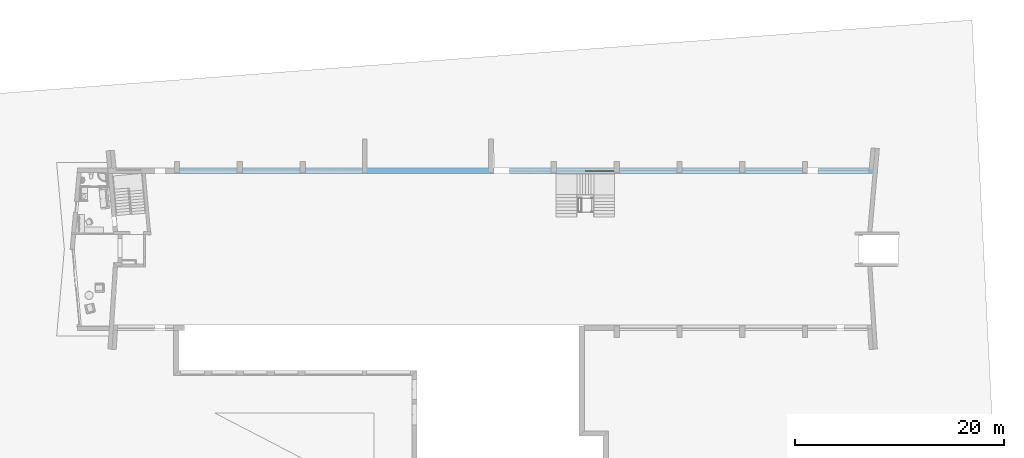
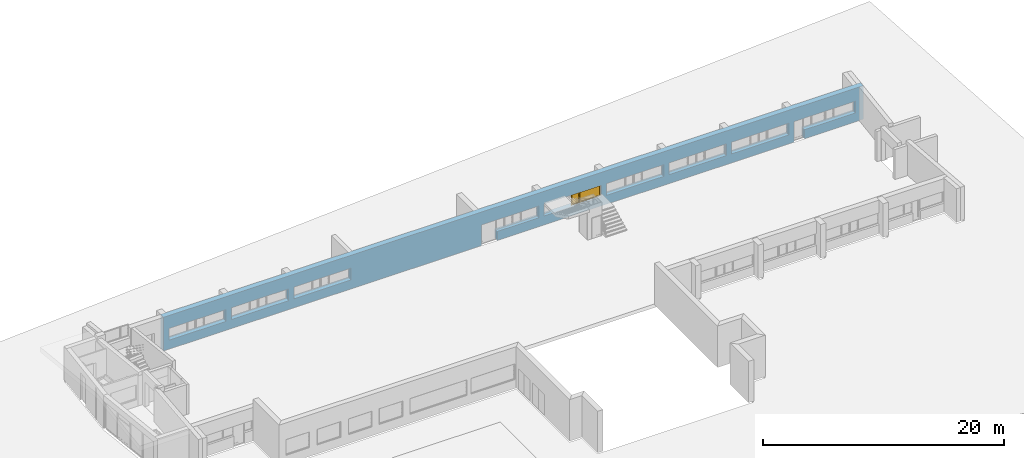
# One storey, part 20 of 36: 1 window, 20 openings, plus 1 element that does not belong to this part.
"""IFC2X3 building model written with IfcOpenShell, lengths in millimetres."""

from ifc_helpers import new_model, entity, si_unit, converted_unit, money_unit, direction, frame, origin_with_axes, place, context, subcontext, project, spatial, polyline, outline, extrude, open_shell, faceted_brep, surface_model, material, material_list, layer, layer_set, layer_usage, type_object, element, fill, save


model = new_model("IFC2X3")

# Units and contexts
model_context = context("Model", 3, precision=1e-05, world=origin_with_axes(), true_north=direction((0.0, 1.0)))
body_context = subcontext(model_context, "Body", "Model", "MODEL_VIEW")
ifc_project = project(units=[si_unit("LENGTHUNIT", "METRE", prefix="MILLI"), si_unit("AREAUNIT", "SQUARE_METRE"), si_unit("VOLUMEUNIT", "CUBIC_METRE"), converted_unit("PLANEANGLEUNIT", "DEGREE", entity("IfcPlaneAngleMeasure", 0.0174532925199), si_unit("PLANEANGLEUNIT", "RADIAN"), dimensions=[0, 0, 0, 0, 0, 0, 0]), si_unit("SOLIDANGLEUNIT", "STERADIAN"), money_unit("USD"), converted_unit("TIMEUNIT", "Year", entity("IfcTimeMeasure", 31556926.0), si_unit("TIMEUNIT", "SECOND"), dimensions=[0, 0, 0, 0, 0, 0, 0]), si_unit("MASSUNIT", "GRAM"), si_unit("THERMODYNAMICTEMPERATUREUNIT", "DEGREE_CELSIUS"), si_unit("LUMINOUSINTENSITYUNIT", "LUMEN")], contexts=[model_context])

# Site, building, storey
site_placement = place(None, origin_with_axes())
site = spatial("IfcSite", under=ifc_project, at=site_placement, Name="Site", CompositionType="ELEMENT")
building_placement = place(site_placement, origin_with_axes())
building = spatial("IfcBuilding", under=site, at=building_placement, Name="Building", CompositionType="ELEMENT")
storey_placement = place(building_placement, frame((0.0, 0.0, -3400.0), z_axis=(0.0, 0.0, 1.0), x_axis=(1.0, 0.0, 0.0)))
storey = spatial("IfcBuildingStorey", under=building, at=storey_placement, Name="1KORRUS", CompositionType="ELEMENT", Elevation=-3400.0)

# Wall, openings, window
ifc_material_1 = material(Name="Olemasolevad seinad tellis, uus viimistlus")
ifc_layer = layer(ifc_material_1, 500.0, ventilated="UNKNOWN")
ifc_layer_set = layer_set([ifc_layer], Name="Olemasolevad seinad tellis, uus viimistlus 500")
ifc_layer_usage = layer_usage(ifc_layer_set, "AXIS2", "POSITIVE", -100.0)
wall_type = type_object("IfcWallType", Name="Olemasolevad seinad tellis, uus viimistlus 500", PredefinedType="NOTDEFINED")
wall_placement = place(storey_placement, frame((-48393.8274049, -5039.6041088, 0.0), z_axis=(0.0, 0.0, 1.0), x_axis=(1.0, 0.0, 0.0)))
wall = element("IfcWallStandardCase", 1, at=wall_placement, inside=storey, type_object=wall_type, material=ifc_layer_usage, Name="VS1", ObjectType="VS1", context=body_context, shape_type="SweptSolid", body=[
    extrude(outline(polyline([(0.0, -100.0), (67149.8194303, -100.0), (67149.8194303, 400.0), (0.0, 400.0), (0.0, -100.0)])), origin_with_axes(), (0.0, 0.0, 1.0), 3400.0),
])
opening_1_placement = place(wall_placement, frame((1878.53070154, 0.0, 900.0), z_axis=(0.0, 0.0, 1.0), x_axis=(1.0, 0.0, 0.0)))
element("IfcOpeningElement", 2, at=opening_1_placement, cuts=wall, Name="Olemasolevad aknad jäävad", context=body_context, shape_type="SweptSolid", body=[
    extrude(outline(polyline([(-1375.0, 1200.0), (-1375.0, 0.0), (1375.0, 0.0), (1375.0, 1200.0), (-1375.0, 1200.0)])), frame((0.0, 250.0, 0.0), z_axis=(0.0, -1.0, 0.0), x_axis=(1.0, 0.0, 0.0)), (0.0, 0.0, 1.0), 850.0),
    extrude(outline(polyline([(-1375.0, 0.0), (-1375.0, -1200.0), (1375.0, -1200.0), (1375.0, 0.0), (-1375.0, 0.0)])), frame((0.0, 250.0, 0.0), z_axis=(0.0, 1.0, 0.0), x_axis=(1.0, 0.0, 0.0)), (0.0, 0.0, 1.0), 650.0),
])
opening_2_placement = place(wall_placement, frame((7878.53070154, 0.0, 900.0), z_axis=(0.0, 0.0, 1.0), x_axis=(1.0, 0.0, 0.0)))
element("IfcOpeningElement", 3, at=opening_2_placement, cuts=wall, Name="Olemasolevad aknad jäävad", context=body_context, shape_type="SweptSolid", body=[
    extrude(outline(polyline([(-1375.0, 1200.0), (-1375.0, 0.0), (1375.0, 0.0), (1375.0, 1200.0), (-1375.0, 1200.0)])), frame((0.0, 250.0, 0.0), z_axis=(0.0, -1.0, 0.0), x_axis=(1.0, 0.0, 0.0)), (0.0, 0.0, 1.0), 850.0),
    extrude(outline(polyline([(-1375.0, 0.0), (-1375.0, -1200.0), (1375.0, -1200.0), (1375.0, 0.0), (-1375.0, 0.0)])), frame((0.0, 250.0, 0.0), z_axis=(0.0, 1.0, 0.0), x_axis=(1.0, 0.0, 0.0)), (0.0, 0.0, 1.0), 650.0),
])
opening_3_placement = place(wall_placement, frame((13878.5307015, 0.0, 900.0), z_axis=(0.0, 0.0, 1.0), x_axis=(1.0, 0.0, 0.0)))
element("IfcOpeningElement", 4, at=opening_3_placement, cuts=wall, Name="Olemasolevad aknad jäävad", context=body_context, shape_type="SweptSolid", body=[
    extrude(outline(polyline([(-1375.0, 1200.0), (-1375.0, 0.0), (1375.0, 0.0), (1375.0, 1200.0), (-1375.0, 1200.0)])), frame((0.0, 250.0, 0.0), z_axis=(0.0, -1.0, 0.0), x_axis=(1.0, 0.0, 0.0)), (0.0, 0.0, 1.0), 850.0),
    extrude(outline(polyline([(-1375.0, 0.0), (-1375.0, -1200.0), (1375.0, -1200.0), (1375.0, 0.0), (-1375.0, 0.0)])), frame((0.0, 250.0, 0.0), z_axis=(0.0, 1.0, 0.0), x_axis=(1.0, 0.0, 0.0)), (0.0, 0.0, 1.0), 650.0),
])
opening_4_placement = place(wall_placement, frame((4628.53070154, 0.0, 900.0), z_axis=(0.0, 0.0, 1.0), x_axis=(1.0, 0.0, 0.0)))
element("IfcOpeningElement", 5, at=opening_4_placement, cuts=wall, Name="Olemasolevad aknad jäävad", context=body_context, shape_type="SweptSolid", body=[
    extrude(outline(polyline([(1375.0, 1200.0), (-1375.0, 1200.0), (-1375.0, 0.0), (1375.0, 0.0), (1375.0, 1200.0)])), frame((0.0, 250.0, 0.0), z_axis=(0.0, -1.0, 0.0), x_axis=(1.0, 0.0, 0.0)), (0.0, 0.0, 1.0), 850.0),
    extrude(outline(polyline([(1375.0, 0.0), (-1375.0, 0.0), (-1375.0, -1200.0), (1375.0, -1200.0), (1375.0, 0.0)])), frame((0.0, 250.0, 0.0), z_axis=(0.0, 1.0, 0.0), x_axis=(1.0, 0.0, 0.0)), (0.0, 0.0, 1.0), 650.0),
])
opening_5_placement = place(wall_placement, frame((10628.5307015, 0.0, 900.0), z_axis=(0.0, 0.0, 1.0), x_axis=(1.0, 0.0, 0.0)))
element("IfcOpeningElement", 6, at=opening_5_placement, cuts=wall, Name="Olemasolevad aknad jäävad", context=body_context, shape_type="SweptSolid", body=[
    extrude(outline(polyline([(1375.0, 1200.0), (-1375.0, 1200.0), (-1375.0, 0.0), (1375.0, 0.0), (1375.0, 1200.0)])), frame((0.0, 250.0, 0.0), z_axis=(0.0, -1.0, 0.0), x_axis=(1.0, 0.0, 0.0)), (0.0, 0.0, 1.0), 850.0),
    extrude(outline(polyline([(1375.0, 0.0), (-1375.0, 0.0), (-1375.0, -1200.0), (1375.0, -1200.0), (1375.0, 0.0)])), frame((0.0, 250.0, 0.0), z_axis=(0.0, 1.0, 0.0), x_axis=(1.0, 0.0, 0.0)), (0.0, 0.0, 1.0), 650.0),
])
opening_6_placement = place(wall_placement, frame((16616.9651775, 0.0, 900.0), z_axis=(0.0, 0.0, 1.0), x_axis=(1.0, 0.0, 0.0)))
element("IfcOpeningElement", 7, at=opening_6_placement, cuts=wall, Name="Olemasolevad aknad jäävad", context=body_context, shape_type="SweptSolid", body=[
    extrude(outline(polyline([(1375.0, 1200.0), (-1375.0, 1200.0), (-1375.0, 0.0), (1375.0, 0.0), (1375.0, 1200.0)])), frame((0.0, 250.0, 0.0), z_axis=(0.0, -1.0, 0.0), x_axis=(1.0, 0.0, 0.0)), (0.0, 0.0, 1.0), 850.0),
    extrude(outline(polyline([(1375.0, 0.0), (-1375.0, 0.0), (-1375.0, -1200.0), (1375.0, -1200.0), (1375.0, 0.0)])), frame((0.0, 250.0, 0.0), z_axis=(0.0, 1.0, 0.0), x_axis=(1.0, 0.0, 0.0)), (0.0, 0.0, 1.0), 650.0),
])
opening_7_placement = place(wall_placement, frame((34803.5307015, 0.0, 900.0), z_axis=(0.0, 0.0, 1.0), x_axis=(1.0, 0.0, 0.0)))
element("IfcOpeningElement", 8, at=opening_7_placement, cuts=wall, Name="Olemasolevad aknad jäävad", context=body_context, shape_type="SweptSolid", body=[
    extrude(outline(polyline([(1200.0, 0.0), (-1200.0, 0.0), (-1200.0, -1200.0), (1200.0, -1200.0), (1200.0, 0.0)])), frame((0.0, 100.0, 0.0), z_axis=(0.0, 1.0, 0.0), x_axis=(1.0, 0.0, 0.0)), (0.0, 0.0, 1.0), 800.0),
    extrude(outline(polyline([(1200.0, 1200.0), (-1200.0, 1200.0), (-1200.0, 0.0), (1200.0, 0.0), (1200.0, 1200.0)])), frame((0.0, 100.0, 0.0), z_axis=(0.0, -1.0, 0.0), x_axis=(1.0, 0.0, 0.0)), (0.0, 0.0, 1.0), 700.0),
])
opening_8_placement = place(wall_placement, frame((40625.1633636, 0.0, 900.0), z_axis=(0.0, 0.0, 1.0), x_axis=(1.0, 0.0, 0.0)))
opening_8 = element("IfcOpeningElement", 9, at=opening_8_placement, cuts=wall, Name="Olemasolevad aknad jäävad", context=body_context, shape_type="SweptSolid", body=[
    extrude(outline(polyline([(1400.0, 0.0), (-1400.0, 0.0), (-1400.0, -1200.0), (1400.0, -1200.0), (1400.0, 0.0)])), frame((0.0, 100.0, 0.0), z_axis=(0.0, 1.0, 0.0), x_axis=(1.0, 0.0, 0.0)), (0.0, 0.0, 1.0), 800.0),
    extrude(outline(polyline([(1400.0, 1200.0), (-1400.0, 1200.0), (-1400.0, 0.0), (1400.0, 0.0), (1400.0, 1200.0)])), frame((0.0, 100.0, 0.0), z_axis=(0.0, -1.0, 0.0), x_axis=(1.0, 0.0, 0.0)), (0.0, 0.0, 1.0), 700.0),
])
opening_9_placement = place(wall_placement, frame((37871.3218818, 0.0, 900.0), z_axis=(0.0, 0.0, 1.0), x_axis=(1.0, 0.0, 0.0)))
element("IfcOpeningElement", 10, at=opening_9_placement, cuts=wall, Name="Olemasolevad aknad jäävad", context=body_context, shape_type="SweptSolid", body=[
    extrude(outline(polyline([(-1367.791, 0.0), (-1367.791, -1200.0), (1367.791, -1200.0), (1367.791, 0.0), (-1367.791, 0.0)])), frame((0.0, 150.0, 0.0), z_axis=(0.0, 1.0, 0.0), x_axis=(1.0, 0.0, 0.0)), (0.0, 0.0, 1.0), 750.0),
    extrude(outline(polyline([(-1367.791, 1200.0), (-1367.791, 0.0), (1367.791, 0.0), (1367.791, 1200.0), (-1367.791, 1200.0)])), frame((0.0, 150.0, 0.0), z_axis=(0.0, -1.0, 0.0), x_axis=(1.0, 0.0, 0.0)), (0.0, 0.0, 1.0), 750.0),
])
opening_10_placement = place(wall_placement, frame((46628.5307015, 0.0, 900.0), z_axis=(0.0, 0.0, 1.0), x_axis=(1.0, 0.0, 0.0)))
element("IfcOpeningElement", 11, at=opening_10_placement, cuts=wall, Name="Olemasolevad aknad jäävad", context=body_context, shape_type="SweptSolid", body=[
    extrude(outline(polyline([(1375.0, 1200.0), (-1375.0, 1200.0), (-1375.0, 0.0), (1375.0, 0.0), (1375.0, 1200.0)])), frame((0.0, 150.0, 0.0), z_axis=(0.0, -1.0, 0.0), x_axis=(1.0, 0.0, 0.0)), (0.0, 0.0, 1.0), 750.0),
    extrude(outline(polyline([(1375.0, 0.0), (-1375.0, 0.0), (-1375.0, -1200.0), (1375.0, -1200.0), (1375.0, 0.0)])), frame((0.0, 150.0, 0.0), z_axis=(0.0, 1.0, 0.0), x_axis=(1.0, 0.0, 0.0)), (0.0, 0.0, 1.0), 750.0),
])
opening_11_placement = place(wall_placement, frame((43878.5307015, 0.0, 900.0), z_axis=(0.0, 0.0, 1.0), x_axis=(1.0, 0.0, 0.0)))
element("IfcOpeningElement", 12, at=opening_11_placement, cuts=wall, Name="Olemasolevad aknad jäävad", context=body_context, shape_type="SweptSolid", body=[
    extrude(outline(polyline([(-1375.0, 1200.0), (-1375.0, 0.0), (1375.0, 0.0), (1375.0, 1200.0), (-1375.0, 1200.0)])), frame((0.0, 200.0, 0.0), z_axis=(0.0, -1.0, 0.0), x_axis=(1.0, 0.0, 0.0)), (0.0, 0.0, 1.0), 800.0),
    extrude(outline(polyline([(-1375.0, 0.0), (-1375.0, -1200.0), (1375.0, -1200.0), (1375.0, 0.0), (-1375.0, 0.0)])), frame((0.0, 200.0, 0.0), z_axis=(0.0, 1.0, 0.0), x_axis=(1.0, 0.0, 0.0)), (0.0, 0.0, 1.0), 700.0),
])
opening_12_placement = place(wall_placement, frame((52635.3834465, 0.0, 900.0), z_axis=(0.0, 0.0, 1.0), x_axis=(1.0, 0.0, 0.0)))
element("IfcOpeningElement", 13, at=opening_12_placement, cuts=wall, Name="Olemasolevad aknad jäävad", context=body_context, shape_type="SweptSolid", body=[
    extrude(outline(polyline([(1376.809, 1200.0), (-1376.809, 1200.0), (-1376.809, 0.0), (1376.809, 0.0), (1376.809, 1200.0)])), frame((0.0, 150.0, 0.0), z_axis=(0.0, -1.0, 0.0), x_axis=(1.0, 0.0, 0.0)), (0.0, 0.0, 1.0), 750.0),
    extrude(outline(polyline([(1376.809, 0.0), (-1376.809, 0.0), (-1376.809, -1200.0), (1376.809, -1200.0), (1376.809, 0.0)])), frame((0.0, 150.0, 0.0), z_axis=(0.0, 1.0, 0.0), x_axis=(1.0, 0.0, 0.0)), (0.0, 0.0, 1.0), 750.0),
])
opening_13_placement = place(wall_placement, frame((49883.9987013, 0.0, 900.0), z_axis=(0.0, 0.0, 1.0), x_axis=(1.0, 0.0, 0.0)))
element("IfcOpeningElement", 14, at=opening_13_placement, cuts=wall, Name="Olemasolevad aknad jäävad", context=body_context, shape_type="SweptSolid", body=[
    extrude(outline(polyline([(-1375.0, 1200.0), (-1375.0, 0.0), (1375.0, 0.0), (1375.0, 1200.0), (-1375.0, 1200.0)])), frame((0.0, 200.0, 0.0), z_axis=(0.0, -1.0, 0.0), x_axis=(1.0, 0.0, 0.0)), (0.0, 0.0, 1.0), 800.0),
    extrude(outline(polyline([(-1375.0, 0.0), (-1375.0, -1200.0), (1375.0, -1200.0), (1375.0, 0.0), (-1375.0, 0.0)])), frame((0.0, 200.0, 0.0), z_axis=(0.0, 1.0, 0.0), x_axis=(1.0, 0.0, 0.0)), (0.0, 0.0, 1.0), 700.0),
])
opening_14_placement = place(wall_placement, frame((58631.8843372, 0.0, 900.0), z_axis=(0.0, 0.0, 1.0), x_axis=(1.0, 0.0, 0.0)))
element("IfcOpeningElement", 15, at=opening_14_placement, cuts=wall, Name="Olemasolevad aknad jäävad", context=body_context, shape_type="SweptSolid", body=[
    extrude(outline(polyline([(1371.646, 1200.0), (-1371.646, 1200.0), (-1371.646, 0.0), (1371.646, 0.0), (1371.646, 1200.0)])), frame((0.0, 150.0, 0.0), z_axis=(0.0, -1.0, 0.0), x_axis=(1.0, 0.0, 0.0)), (0.0, 0.0, 1.0), 750.0),
    extrude(outline(polyline([(1371.646, 0.0), (-1371.646, 0.0), (-1371.646, -1200.0), (1371.646, -1200.0), (1371.646, 0.0)])), frame((0.0, 150.0, 0.0), z_axis=(0.0, 1.0, 0.0), x_axis=(1.0, 0.0, 0.0)), (0.0, 0.0, 1.0), 750.0),
])
opening_15_placement = place(wall_placement, frame((55886.6217615, 0.0, 900.0), z_axis=(0.0, 0.0, 1.0), x_axis=(1.0, 0.0, 0.0)))
element("IfcOpeningElement", 16, at=opening_15_placement, cuts=wall, Name="Olemasolevad aknad jäävad", context=body_context, shape_type="SweptSolid", body=[
    extrude(outline(polyline([(-1375.0, 1200.0), (-1375.0, 0.0), (1375.0, 0.0), (1375.0, 1200.0), (-1375.0, 1200.0)])), frame((0.0, 200.0, 0.0), z_axis=(0.0, -1.0, 0.0), x_axis=(1.0, 0.0, 0.0)), (0.0, 0.0, 1.0), 800.0),
    extrude(outline(polyline([(-1375.0, 0.0), (-1375.0, -1200.0), (1375.0, -1200.0), (1375.0, 0.0), (-1375.0, 0.0)])), frame((0.0, 200.0, 0.0), z_axis=(0.0, 1.0, 0.0), x_axis=(1.0, 0.0, 0.0)), (0.0, 0.0, 1.0), 700.0),
])
opening_16_placement = place(wall_placement, frame((64995.2517085, 0.0, 900.0), z_axis=(0.0, 0.0, 1.0), x_axis=(1.0, 0.0, 0.0)))
element("IfcOpeningElement", 17, at=opening_16_placement, cuts=wall, Name="Olemasolevad aknad jäävad", context=body_context, shape_type="SweptSolid", body=[
    extrude(outline(polyline([(1375.0, 1200.0), (-1375.0, 1200.0), (-1375.0, 0.0), (1375.0, 0.0), (1375.0, 1200.0)])), frame((0.0, 150.0, 0.0), z_axis=(0.0, -1.0, 0.0), x_axis=(1.0, 0.0, 0.0)), (0.0, 0.0, 1.0), 750.0),
    extrude(outline(polyline([(1375.0, 0.0), (-1375.0, 0.0), (-1375.0, -1200.0), (1375.0, -1200.0), (1375.0, 0.0)])), frame((0.0, 150.0, 0.0), z_axis=(0.0, 1.0, 0.0), x_axis=(1.0, 0.0, 0.0)), (0.0, 0.0, 1.0), 750.0),
])
opening_17_placement = place(wall_placement, frame((32810.8244307, 0.0, 900.0), z_axis=(0.0, 0.0, 1.0), x_axis=(1.0, 0.0, 0.0)))
element("IfcOpeningElement", 18, at=opening_17_placement, cuts=wall, Name="Olemasolevad aknad jäävad", context=body_context, shape_type="SweptSolid", body=[
    extrude(outline(polyline([(792.706, 0.0), (-792.706, 0.0), (-792.706, -1200.0), (792.706, -1200.0), (792.706, 0.0)])), frame((0.0, 100.0, 0.0), z_axis=(0.0, 1.0, 0.0), x_axis=(1.0, 0.0, 0.0)), (0.0, 0.0, 1.0), 800.0),
    extrude(outline(polyline([(792.706, 1200.0), (-792.706, 1200.0), (-792.706, 0.0), (792.706, 0.0), (792.706, 1200.0)])), frame((0.0, 100.0, 0.0), z_axis=(0.0, -1.0, 0.0), x_axis=(1.0, 0.0, 0.0)), (0.0, 0.0, 1.0), 700.0),
])
opening_18_placement = place(wall_placement, frame((62561.891205, 0.0, 900.0), z_axis=(0.0, 0.0, 1.0), x_axis=(1.0, 0.0, 0.0)))
element("IfcOpeningElement", 19, at=opening_18_placement, cuts=wall, Name="Olemasolevad aknad jäävad", context=body_context, shape_type="SweptSolid", body=[
    extrude(outline(polyline([(1058.361, 1200.0), (-1058.361, 1200.0), (-1058.361, 0.0), (1058.361, 0.0), (1058.361, 1200.0)])), frame((0.0, 150.0, 0.0), z_axis=(0.0, -1.0, 0.0), x_axis=(1.0, 0.0, 0.0)), (0.0, 0.0, 1.0), 750.0),
    extrude(outline(polyline([(1058.361, 0.0), (-1058.361, 0.0), (-1058.361, -1200.0), (1058.361, -1200.0), (1058.361, 0.0)])), frame((0.0, 150.0, 0.0), z_axis=(0.0, 1.0, 0.0), x_axis=(1.0, 0.0, 0.0)), (0.0, 0.0, 1.0), 750.0),
])
opening_19_placement = place(wall_placement, frame((61003.5307015, 0.0, -4.66441168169), z_axis=(0.0, 0.0, 1.0), x_axis=(1.0, 0.0, 0.0)))
element("IfcOpeningElement", 20, at=opening_19_placement, cuts=wall, Name="ava", context=body_context, shape_type="SweptSolid", body=[
    extrude(outline(polyline([(-500.0, 2100.0), (-500.0, 0.0), (500.0, 0.0), (500.0, 2100.0), (-500.0, 2100.0)])), frame((0.0, 200.0, 0.0), z_axis=(0.0, 1.0, 0.0), x_axis=(-1.0, 0.0, 0.0)), (0.0, 0.0, -1.0), 800.0),
    extrude(outline(polyline([(-500.0, 0.0), (-500.0, -2100.0), (500.0, -2100.0), (500.0, 0.0), (-500.0, 0.0)])), frame((0.0, 200.0, 0.0), z_axis=(0.0, -1.0, 0.0), x_axis=(-1.0, 0.0, 0.0)), (0.0, 0.0, -1.0), 700.0),
])
opening_20_placement = place(wall_placement, frame((31268.1181599, 0.0, 0.0), z_axis=(0.0, 0.0, 1.0), x_axis=(1.0, 0.0, 0.0)))
element("IfcOpeningElement", 21, at=opening_20_placement, cuts=wall, Name="ava", context=body_context, shape_type="SweptSolid", body=[
    extrude(outline(polyline([(-750.0, 2100.0), (-750.0, 0.0), (750.0, 0.0), (750.0, 2100.0), (-750.0, 2100.0)])), frame((0.0, 200.0, 0.0), z_axis=(0.0, -1.0, 0.0), x_axis=(1.0, 0.0, 0.0)), (0.0, 0.0, 1.0), 800.0),
    extrude(outline(polyline([(-750.0, 0.0), (-750.0, -2100.0), (750.0, -2100.0), (750.0, 0.0), (-750.0, 0.0)])), frame((0.0, 200.0, 0.0), z_axis=(0.0, 1.0, 0.0), x_axis=(1.0, 0.0, 0.0)), (0.0, 0.0, 1.0), 700.0),
])
ifc_material_2 = material(Name="Background")
ifc_material_list = material_list([ifc_material_2])
window_style = type_object("IfcWindowStyle", Name="Double Window 19", ConstructionType="NOTDEFINED", OperationType="DOUBLE_PANEL_VERTICAL", ParameterTakesPrecedence=False, Sizeable=False)
window_placement = place(opening_8_placement, frame((-1400.0, 0.0, 0.0), z_axis=(0.0, 0.0, 1.0), x_axis=(1.0, 0.0, 0.0)))
window = element("IfcWindow", 22, at=window_placement, inside=storey, type_object=window_style, material=ifc_material_list, Name="Olemasolevad aknad jäävad", ObjectType="Olemasolevad aknad jäävad", OverallHeight=1200.0, OverallWidth=2800.0, context=body_context, shape_type="SurfaceModel", body=[
    faceted_brep([(2775.0, 150.0, 1150.0), (2775.0, 125.0, 1150.0), (2750.0, 125.0, 1150.0), (2750.0, 100.0, 1150.0), (2800.0, 100.0, 1150.0), (2800.0, 150.0, 1150.0), (2775.0, 150.0, 50.0), (2775.0, 125.0, 50.0), (2750.0, 125.0, 50.0), (2750.0, 100.0, 50.0), (2800.0, 100.0, 50.0), (2800.0, 150.0, 50.0)], [[[0, 1, 2, 3, 4, 5]], [[1, 0, 6, 7]], [[8, 2, 1, 7]], [[2, 8, 9, 3]], [[4, 3, 9, 10]], [[5, 4, 10, 11]], [[6, 0, 5, 11]], [[7, 6, 11, 10, 9, 8]]]),
    faceted_brep([(50.0, 125.0, 1150.0), (25.0, 125.0, 1150.0), (25.0, 150.0, 1150.0), (0.0, 150.0, 1150.0), (0.0, 100.0, 1150.0), (50.0, 100.0, 1150.0), (50.0, 125.0, 50.0), (25.0, 125.0, 50.0), (25.0, 150.0, 50.0), (0.0, 150.0, 50.0), (0.0, 100.0, 50.0), (50.0, 100.0, 50.0)], [[[0, 1, 2, 3, 4, 5]], [[1, 0, 6, 7]], [[8, 2, 1, 7]], [[2, 8, 9, 3]], [[9, 10, 4, 3]], [[10, 11, 5, 4]], [[6, 0, 5, 11]], [[7, 6, 11, 10, 9, 8]]]),
    faceted_brep([(850.0, 125.0, 1150.0), (825.0, 125.0, 1150.0), (825.0, 150.0, 1150.0), (775.0, 150.0, 1150.0), (775.0, 125.0, 1150.0), (750.0, 125.0, 1150.0), (750.0, 100.0, 1150.0), (850.0, 100.0, 1150.0), (850.0, 125.0, 50.0), (825.0, 125.0, 50.0), (825.0, 150.0, 50.0), (775.0, 150.0, 50.0), (775.0, 125.0, 50.0), (750.0, 125.0, 50.0), (750.0, 100.0, 50.0), (850.0, 100.0, 50.0)], [[[0, 1, 2, 3, 4, 5, 6, 7]], [[1, 0, 8, 9]], [[10, 2, 1, 9]], [[2, 10, 11, 3]], [[4, 3, 11, 12]], [[13, 5, 4, 12]], [[5, 13, 14, 6]], [[14, 15, 7, 6]], [[8, 0, 7, 15]], [[9, 8, 15, 14, 13, 12, 11, 10]]]),
    faceted_brep([(850.0, 125.0, 50.0), (825.0, 125.0, 50.0), (825.0, 150.0, 50.0), (775.0, 150.0, 50.0), (775.0, 125.0, 50.0), (750.0, 125.0, 50.0), (750.0, 100.0, 50.0), (850.0, 100.0, 50.0), (2750.0, 125.0, 50.0), (2775.0, 125.0, 50.0), (2775.0, 125.0, 25.0), (825.0, 125.0, 25.0), (825.0, 150.0, 25.0), (2775.0, 150.0, 25.0), (2775.0, 150.0, 50.0), (2800.0, 150.0, 50.0), (2800.0, 150.0, 0.0), (0.0, 150.0, 0.0), (0.0, 150.0, 50.0), (25.0, 150.0, 50.0), (25.0, 150.0, 25.0), (775.0, 150.0, 25.0), (775.0, 125.0, 25.0), (25.0, 125.0, 50.0), (50.0, 125.0, 50.0), (25.0, 125.0, 25.0), (50.0, 100.0, 50.0), (2800.0, 100.0, 50.0), (2750.0, 100.0, 50.0), (0.0, 100.0, 50.0), (0.0, 100.0, 0.0), (2800.0, 100.0, 0.0)], [[[0, 1, 2, 3, 4, 5, 6, 7]], [[1, 0, 8, 9, 10, 11]], [[12, 2, 1, 11]], [[13, 14, 15, 16, 17, 18, 19, 20, 21, 3, 2, 12]], [[4, 3, 21, 22]], [[23, 24, 5, 4, 22, 25]], [[5, 24, 26, 6]], [[27, 28, 7, 6, 26, 29, 30, 31]], [[8, 0, 7, 28]], [[9, 8, 28, 27, 15, 14]], [[9, 14, 13, 10]], [[13, 12, 11, 10]], [[15, 27, 31, 16]], [[16, 31, 30, 17]], [[17, 30, 29, 18]], [[24, 23, 19, 18, 29, 26]], [[20, 19, 23, 25]], [[21, 20, 25, 22]]]),
    faceted_brep([(2775.0, 150.0, 1150.0), (2775.0, 150.0, 1175.0), (825.0, 150.0, 1175.0), (825.0, 150.0, 1150.0), (775.0, 150.0, 1150.0), (775.0, 150.0, 1175.0), (25.0, 150.0, 1175.0), (25.0, 150.0, 1150.0), (0.0, 150.0, 1150.0), (0.0, 150.0, 1200.0), (2800.0, 150.0, 1200.0), (2800.0, 150.0, 1150.0), (2775.0, 125.0, 1150.0), (2775.0, 125.0, 1175.0), (825.0, 125.0, 1175.0), (825.0, 125.0, 1150.0), (850.0, 125.0, 1150.0), (850.0, 100.0, 1150.0), (750.0, 100.0, 1150.0), (750.0, 125.0, 1150.0), (775.0, 125.0, 1150.0), (775.0, 125.0, 1175.0), (25.0, 125.0, 1175.0), (25.0, 125.0, 1150.0), (50.0, 125.0, 1150.0), (50.0, 100.0, 1150.0), (0.0, 100.0, 1150.0), (0.0, 100.0, 1200.0), (2800.0, 100.0, 1200.0), (2800.0, 100.0, 1150.0), (2750.0, 100.0, 1150.0), (2750.0, 125.0, 1150.0)], [[[0, 1, 2, 3, 4, 5, 6, 7, 8, 9, 10, 11]], [[1, 0, 12, 13]], [[2, 1, 13, 14]], [[3, 2, 14, 15]], [[15, 16, 17, 18, 19, 20, 4, 3]], [[5, 4, 20, 21]], [[6, 5, 21, 22]], [[7, 6, 22, 23]], [[23, 24, 25, 26, 8, 7]], [[8, 26, 27, 9]], [[9, 27, 28, 10]], [[10, 28, 29, 11]], [[12, 0, 11, 29, 30, 31]], [[16, 15, 14, 13, 12, 31]], [[16, 31, 30, 17]], [[18, 17, 30, 29, 28, 27, 26, 25]], [[24, 19, 18, 25]], [[24, 23, 22, 21, 20, 19]]]),
    faceted_brep([(2725.0, 125.0, 1125.0), (2775.0, 125.0, 1125.0), (2775.0, 175.0, 1125.0), (2725.0, 175.0, 1125.0), (2725.0, 125.0, 75.0), (2775.0, 125.0, 75.0), (2775.0, 175.0, 75.0), (2725.0, 175.0, 75.0)], [[[0, 1, 2, 3]], [[0, 4, 5, 1]], [[1, 5, 6, 2]], [[3, 2, 6, 7]], [[4, 0, 3, 7]], [[5, 4, 7, 6]]]),
    faceted_brep([(875.0, 125.0, 75.0), (825.0, 125.0, 75.0), (825.0, 175.0, 75.0), (875.0, 175.0, 75.0), (875.0, 125.0, 1125.0), (825.0, 125.0, 1125.0), (825.0, 175.0, 1125.0), (875.0, 175.0, 1125.0)], [[[0, 1, 2, 3]], [[0, 4, 5, 1]], [[1, 5, 6, 2]], [[3, 2, 6, 7]], [[4, 0, 3, 7]], [[5, 4, 7, 6]]]),
    faceted_brep([(825.0, 125.0, 25.0), (825.0, 125.0, 75.0), (825.0, 175.0, 75.0), (825.0, 175.0, 25.0), (2775.0, 125.0, 25.0), (2775.0, 125.0, 75.0), (2725.0, 125.0, 75.0), (875.0, 125.0, 75.0), (875.0, 175.0, 75.0), (2725.0, 175.0, 75.0), (2775.0, 175.0, 75.0), (2775.0, 175.0, 25.0)], [[[0, 1, 2, 3]], [[0, 4, 5, 6, 7, 1]], [[1, 7, 8, 2]], [[3, 2, 8, 9, 10, 11]], [[4, 0, 3, 11]], [[5, 4, 11, 10]], [[6, 5, 10, 9]], [[7, 6, 9, 8]]]),
    faceted_brep([(2775.0, 125.0, 1175.0), (2775.0, 125.0, 1125.0), (2775.0, 175.0, 1125.0), (2775.0, 175.0, 1175.0), (825.0, 125.0, 1175.0), (825.0, 125.0, 1125.0), (875.0, 125.0, 1125.0), (2725.0, 125.0, 1125.0), (2725.0, 175.0, 1125.0), (875.0, 175.0, 1125.0), (825.0, 175.0, 1125.0), (825.0, 175.0, 1175.0)], [[[0, 1, 2, 3]], [[0, 4, 5, 6, 7, 1]], [[1, 7, 8, 2]], [[3, 2, 8, 9, 10, 11]], [[4, 0, 3, 11]], [[5, 4, 11, 10]], [[6, 5, 10, 9]], [[7, 6, 9, 8]]]),
    surface_model("IfcShellBasedSurfaceModel", [(2725.0, 140.0, 75.0), (2725.0, 140.0, 1125.0), (875.0, 140.0, 1125.0), (875.0, 140.0, 75.0)], [open_shell([[[0, 1, 2, 3]]])]),
    surface_model("IfcShellBasedSurfaceModel", [(2725.0, 160.0, 75.0), (875.0, 160.0, 75.0), (875.0, 160.0, 1125.0), (2725.0, 160.0, 1125.0)], [open_shell([[[0, 1, 2, 3]]])]),
    faceted_brep([(725.0, 125.0, 1125.0), (775.0, 125.0, 1125.0), (775.0, 175.0, 1125.0), (725.0, 175.0, 1125.0), (725.0, 125.0, 75.0), (775.0, 125.0, 75.0), (775.0, 175.0, 75.0), (725.0, 175.0, 75.0)], [[[0, 1, 2, 3]], [[0, 4, 5, 1]], [[1, 5, 6, 2]], [[3, 2, 6, 7]], [[4, 0, 3, 7]], [[5, 4, 7, 6]]]),
    faceted_brep([(75.0, 125.0, 75.0), (25.0, 125.0, 75.0), (25.0, 175.0, 75.0), (75.0, 175.0, 75.0), (75.0, 125.0, 1125.0), (25.0, 125.0, 1125.0), (25.0, 175.0, 1125.0), (75.0, 175.0, 1125.0)], [[[0, 1, 2, 3]], [[0, 4, 5, 1]], [[1, 5, 6, 2]], [[3, 2, 6, 7]], [[4, 0, 3, 7]], [[5, 4, 7, 6]]]),
    faceted_brep([(25.0, 125.0, 25.0), (25.0, 125.0, 75.0), (25.0, 175.0, 75.0), (25.0, 175.0, 25.0), (775.0, 125.0, 25.0), (775.0, 125.0, 75.0), (725.0, 125.0, 75.0), (75.0, 125.0, 75.0), (75.0, 175.0, 75.0), (725.0, 175.0, 75.0), (775.0, 175.0, 75.0), (775.0, 175.0, 25.0)], [[[0, 1, 2, 3]], [[0, 4, 5, 6, 7, 1]], [[1, 7, 8, 2]], [[3, 2, 8, 9, 10, 11]], [[4, 0, 3, 11]], [[5, 4, 11, 10]], [[6, 5, 10, 9]], [[7, 6, 9, 8]]]),
    faceted_brep([(775.0, 125.0, 1175.0), (775.0, 125.0, 1125.0), (775.0, 175.0, 1125.0), (775.0, 175.0, 1175.0), (25.0, 125.0, 1175.0), (25.0, 125.0, 1125.0), (75.0, 125.0, 1125.0), (725.0, 125.0, 1125.0), (725.0, 175.0, 1125.0), (75.0, 175.0, 1125.0), (25.0, 175.0, 1125.0), (25.0, 175.0, 1175.0)], [[[0, 1, 2, 3]], [[0, 4, 5, 6, 7, 1]], [[1, 7, 8, 2]], [[3, 2, 8, 9, 10, 11]], [[4, 0, 3, 11]], [[5, 4, 11, 10]], [[6, 5, 10, 9]], [[7, 6, 9, 8]]]),
    surface_model("IfcShellBasedSurfaceModel", [(725.0, 140.0, 75.0), (725.0, 140.0, 1125.0), (75.0, 140.0, 1125.0), (75.0, 140.0, 75.0)], [open_shell([[[0, 1, 2, 3]]])]),
    surface_model("IfcShellBasedSurfaceModel", [(725.0, 160.0, 75.0), (75.0, 160.0, 75.0), (75.0, 160.0, 1125.0), (725.0, 160.0, 1125.0)], [open_shell([[[0, 1, 2, 3]]])]),
])
fill(opening_8, window)

save(model, "model.ifc")
